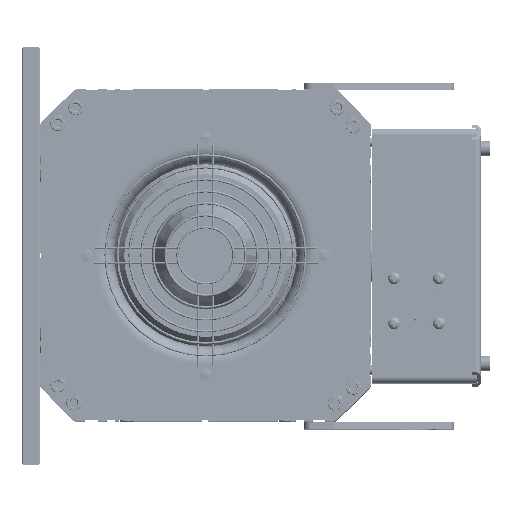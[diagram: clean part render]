
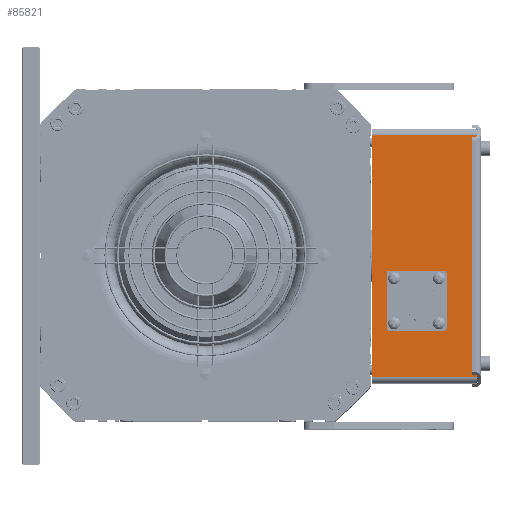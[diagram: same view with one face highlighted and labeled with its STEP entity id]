
A CAD part, top view. The second image highlights one B-rep face of the part: STEP entity #85821.
In plain terms, the highlighted planar face has unit normal (0, 0, 1) as drawn and (-1, 0, 0) by its records, which use the part's own axes.
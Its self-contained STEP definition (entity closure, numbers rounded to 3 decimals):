
#83824=DIRECTION('',(0.,-1.,0.));
#83825=VECTOR('',#83824,162.);
#83826=CARTESIAN_POINT('',(-80.,81.,0.));
#83827=LINE('',#83826,#83825);
#83899=DIRECTION('',(0.,0.,1.));
#83900=VECTOR('',#83899,70.);
#83901=CARTESIAN_POINT('',(-80.,-81.,0.));
#83902=LINE('',#83901,#83900);
#83907=CARTESIAN_POINT('',(-80.,-30.,30.));
#83908=DIRECTION('',(-1.,0.,0.));
#83909=DIRECTION('',(0.,0.,-1.));
#83910=AXIS2_PLACEMENT_3D('',#83907,#83908,#83909);
#83912=CARTESIAN_POINT('',(-80.,-30.,30.));
#83913=DIRECTION('',(-1.,0.,0.));
#83914=DIRECTION('',(0.,0.,1.));
#83915=AXIS2_PLACEMENT_3D('',#83912,#83913,#83914);
#83917=CARTESIAN_POINT('',(-80.,-45.,45.));
#83918=DIRECTION('',(-1.,0.,0.));
#83919=DIRECTION('',(0.,0.,-1.));
#83920=AXIS2_PLACEMENT_3D('',#83917,#83918,#83919);
#83922=CARTESIAN_POINT('',(-80.,-45.,45.));
#83923=DIRECTION('',(-1.,0.,0.));
#83924=DIRECTION('',(0.,0.,1.));
#83925=AXIS2_PLACEMENT_3D('',#83922,#83923,#83924);
#83927=CARTESIAN_POINT('',(-80.,-45.,15.));
#83928=DIRECTION('',(-1.,0.,0.));
#83929=DIRECTION('',(0.,0.,-1.));
#83930=AXIS2_PLACEMENT_3D('',#83927,#83928,#83929);
#83932=CARTESIAN_POINT('',(-80.,-45.,15.));
#83933=DIRECTION('',(-1.,0.,0.));
#83934=DIRECTION('',(0.,0.,1.));
#83935=AXIS2_PLACEMENT_3D('',#83932,#83933,#83934);
#83937=CARTESIAN_POINT('',(-80.,-15.,15.));
#83938=DIRECTION('',(-1.,0.,0.));
#83939=DIRECTION('',(0.,0.,-1.));
#83940=AXIS2_PLACEMENT_3D('',#83937,#83938,#83939);
#83942=CARTESIAN_POINT('',(-80.,-15.,15.));
#83943=DIRECTION('',(-1.,0.,0.));
#83944=DIRECTION('',(0.,0.,1.));
#83945=AXIS2_PLACEMENT_3D('',#83942,#83943,#83944);
#83947=CARTESIAN_POINT('',(-80.,-15.,45.));
#83948=DIRECTION('',(-1.,0.,0.));
#83949=DIRECTION('',(0.,0.,-1.));
#83950=AXIS2_PLACEMENT_3D('',#83947,#83948,#83949);
#83952=CARTESIAN_POINT('',(-80.,-15.,45.));
#83953=DIRECTION('',(-1.,0.,0.));
#83954=DIRECTION('',(0.,0.,1.));
#83955=AXIS2_PLACEMENT_3D('',#83952,#83953,#83954);
#83957=DIRECTION('',(0.,-1.,0.));
#83958=VECTOR('',#83957,162.);
#83959=CARTESIAN_POINT('',(-80.,81.,70.));
#83960=LINE('',#83959,#83958);
#85217=DIRECTION('',(0.,0.,-1.));
#85218=VECTOR('',#85217,70.);
#85219=CARTESIAN_POINT('',(-80.,81.,70.));
#85220=LINE('',#85219,#85218);
#85289=CARTESIAN_POINT('',(-80.,-30.,14.));
#85290=CARTESIAN_POINT('',(-80.,-30.,46.));
#85291=VERTEX_POINT('',#85289);
#85292=VERTEX_POINT('',#85290);
#85293=CARTESIAN_POINT('',(-80.,-45.,43.));
#85294=CARTESIAN_POINT('',(-80.,-45.,47.));
#85295=VERTEX_POINT('',#85293);
#85296=VERTEX_POINT('',#85294);
#85297=CARTESIAN_POINT('',(-80.,-45.,13.));
#85298=CARTESIAN_POINT('',(-80.,-45.,17.));
#85299=VERTEX_POINT('',#85297);
#85300=VERTEX_POINT('',#85298);
#85301=CARTESIAN_POINT('',(-80.,-15.,13.));
#85302=CARTESIAN_POINT('',(-80.,-15.,17.));
#85303=VERTEX_POINT('',#85301);
#85304=VERTEX_POINT('',#85302);
#85305=CARTESIAN_POINT('',(-80.,-15.,43.));
#85306=CARTESIAN_POINT('',(-80.,-15.,47.));
#85307=VERTEX_POINT('',#85305);
#85308=VERTEX_POINT('',#85306);
#85638=CARTESIAN_POINT('',(-80.,-81.,0.));
#85640=VERTEX_POINT('',#85638);
#85641=CARTESIAN_POINT('',(-80.,81.,0.));
#85643=VERTEX_POINT('',#85641);
#85670=CARTESIAN_POINT('',(-80.,81.,70.));
#85672=VERTEX_POINT('',#85670);
#85673=CARTESIAN_POINT('',(-80.,-81.,70.));
#85675=VERTEX_POINT('',#85673);
#85778=CARTESIAN_POINT('',(-80.,85.,0.));
#85779=DIRECTION('',(-1.,0.,0.));
#85780=DIRECTION('',(0.,-1.,0.));
#85781=AXIS2_PLACEMENT_3D('',#85778,#85779,#85780);
#85782=PLANE('',#85781);
#85784=ORIENTED_EDGE('',*,*,#85783,.F.);
#85786=ORIENTED_EDGE('',*,*,#85785,.T.);
#85787=ORIENTED_EDGE('',*,*,#85769,.F.);
#85788=ORIENTED_EDGE('',*,*,#85696,.F.);
#85789=EDGE_LOOP('',(#85784,#85786,#85787,#85788));
#85790=FACE_OUTER_BOUND('',#85789,.F.);
#85792=ORIENTED_EDGE('',*,*,#85791,.T.);
#85794=ORIENTED_EDGE('',*,*,#85793,.T.);
#85795=EDGE_LOOP('',(#85792,#85794));
#85796=FACE_BOUND('',#85795,.F.);
#85798=ORIENTED_EDGE('',*,*,#85797,.T.);
#85800=ORIENTED_EDGE('',*,*,#85799,.T.);
#85801=EDGE_LOOP('',(#85798,#85800));
#85802=FACE_BOUND('',#85801,.F.);
#85804=ORIENTED_EDGE('',*,*,#85803,.T.);
#85806=ORIENTED_EDGE('',*,*,#85805,.T.);
#85807=EDGE_LOOP('',(#85804,#85806));
#85808=FACE_BOUND('',#85807,.F.);
#85810=ORIENTED_EDGE('',*,*,#85809,.T.);
#85812=ORIENTED_EDGE('',*,*,#85811,.T.);
#85813=EDGE_LOOP('',(#85810,#85812));
#85814=FACE_BOUND('',#85813,.F.);
#85816=ORIENTED_EDGE('',*,*,#85815,.T.);
#85818=ORIENTED_EDGE('',*,*,#85817,.T.);
#85819=EDGE_LOOP('',(#85816,#85818));
#85820=FACE_BOUND('',#85819,.F.);
#85821=ADVANCED_FACE('',(#85790,#85796,#85802,#85808,#85814,#85820),#85782,.T.);
#83911=CIRCLE('',#83910,16.);
#83916=CIRCLE('',#83915,16.);
#83921=CIRCLE('',#83920,2.);
#83926=CIRCLE('',#83925,2.);
#83931=CIRCLE('',#83930,2.);
#83936=CIRCLE('',#83935,2.);
#83941=CIRCLE('',#83940,2.);
#83946=CIRCLE('',#83945,2.);
#83951=CIRCLE('',#83950,2.);
#83956=CIRCLE('',#83955,2.);
#85696=EDGE_CURVE('',#85643,#85640,#83827,.T.);
#85769=EDGE_CURVE('',#85640,#85675,#83902,.T.);
#85783=EDGE_CURVE('',#85672,#85643,#85220,.T.);
#85785=EDGE_CURVE('',#85672,#85675,#83960,.T.);
#85791=EDGE_CURVE('',#85295,#85296,#83921,.T.);
#85793=EDGE_CURVE('',#85296,#85295,#83926,.T.);
#85797=EDGE_CURVE('',#85299,#85300,#83931,.T.);
#85799=EDGE_CURVE('',#85300,#85299,#83936,.T.);
#85803=EDGE_CURVE('',#85303,#85304,#83941,.T.);
#85805=EDGE_CURVE('',#85304,#85303,#83946,.T.);
#85809=EDGE_CURVE('',#85307,#85308,#83951,.T.);
#85811=EDGE_CURVE('',#85308,#85307,#83956,.T.);
#85815=EDGE_CURVE('',#85291,#85292,#83911,.T.);
#85817=EDGE_CURVE('',#85292,#85291,#83916,.T.);
